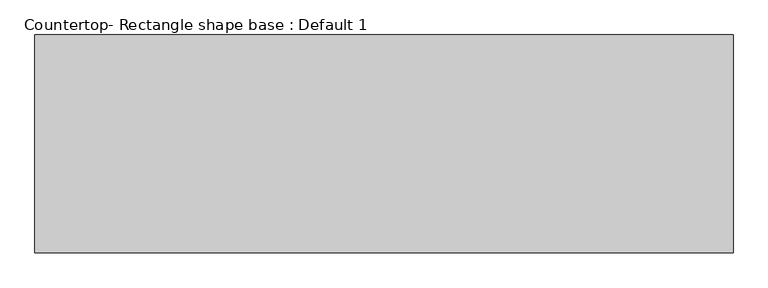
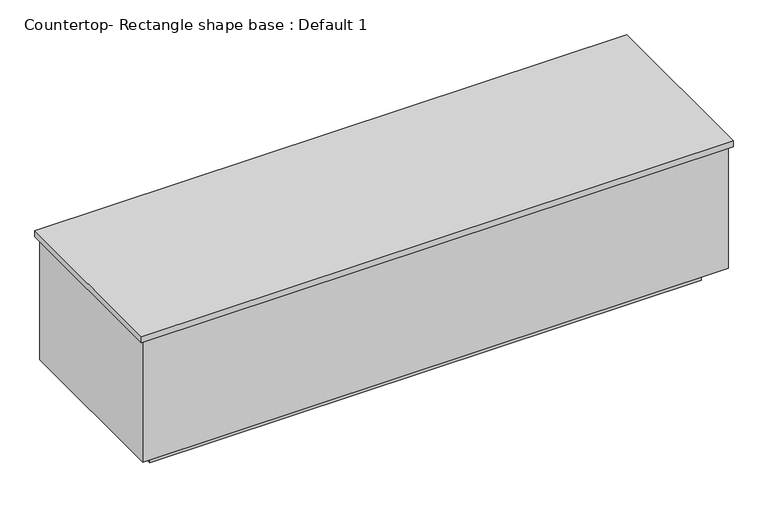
"""IFC4 building model written with IfcOpenShell, lengths in millimetres: proxy geometry, Countertop- Rectangle shape base : Default 1."""

from ifc_helpers import new_model, si_unit, frame, origin, origin_with_axes, place, context, project, spatial, polyline, outline, extrude, source, transform, mapped, element, save


def countertop_rectangle_shape_base_default_1_961ba583(model_context):
    return source(origin(), model_context, "Body", "SweptSolid", [
        extrude(outline(polyline([(-1009.65, -171.45), (-1009.65, 933.45), (2533.65, 933.45), (2533.65, -171.45), (-1009.65, -171.45)])), frame((0.0, 0.0, 876.3), z_axis=(0.0, 0.0, 1.0), x_axis=(1.0, 0.0, 0.0)), (0.0, 0.0, 1.0), 38.1),
        extrude(outline(polyline([(2514.6, 914.4), (2514.6, -152.4), (-990.6, -152.4), (-990.6, 914.4), (2514.6, 914.4)])), frame((0.0, 0.0, 101.6), z_axis=(0.0, 0.0, 1.0), x_axis=(1.0, 0.0, 0.0)), (0.0, 0.0, 1.0), 774.7),
        extrude(outline(polyline([(2413.0, 812.8), (2413.0, -50.8), (-889.0, -50.8), (-889.0, 812.8), (2413.0, 812.8)])), origin_with_axes(), (0.0, 0.0, 1.0), 101.6),
    ])


if __name__ == "__main__":
    model = new_model("IFC4")
    model_context = context("Model", 3, world=origin())
    ifc_project = project(units=[si_unit("LENGTHUNIT", "METRE", prefix="MILLI")], contexts=[model_context])
    site = spatial("IfcSite", under=ifc_project)
    building = spatial("IfcBuilding", under=site)
    placement = place(None, origin())
    countertop_rectangle_shape_base_default_1_shape = countertop_rectangle_shape_base_default_1_961ba583(model_context)
    element("IfcBuildingElementProxy", 1, Name="Countertop- Rectangle shape base : Default 1", ObjectType="Countertop- Rectangle shape base : Default 1", at=placement, inside=building, context=model_context, shape_type="MappedRepresentation", body=[
        mapped(countertop_rectangle_shape_base_default_1_shape, transform((0.0, 0.0, 0.0), x_axis=(1.0, 0.0, 0.0), y_axis=(0.0, 1.0, 0.0), z_axis=(0.0, 0.0, 1.0))),
    ])
    save(model, "model.ifc")
